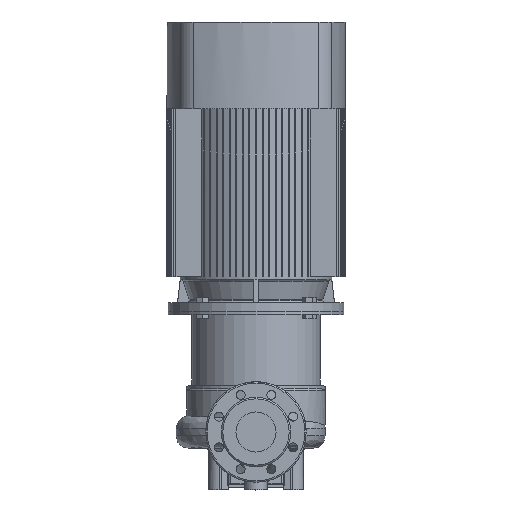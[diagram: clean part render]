
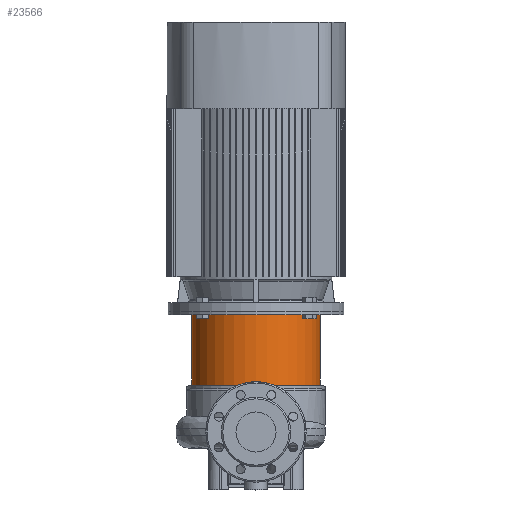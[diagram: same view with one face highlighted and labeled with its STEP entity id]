
A CAD part, top view. The second image highlights one B-rep face of the part: STEP entity #23566.
In plain terms, the highlighted cylindrical face has radius 128 mm (diameter 256 mm), a partial arc.
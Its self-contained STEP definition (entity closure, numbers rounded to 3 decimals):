
#825 = DIRECTION ( 'NONE',  ( 0., 0., 1. ) ) ;
#1632 = DIRECTION ( 'NONE',  ( 1., 0., 0. ) ) ;
#2549 = AXIS2_PLACEMENT_3D ( 'NONE', #22375, #8466, #3315 ) ;
#2662 = LINE ( 'NONE', #13125, #8387 ) ;
#3118 = CARTESIAN_POINT ( 'NONE',  ( -128., 0., -148. ) ) ;
#3315 = DIRECTION ( 'NONE',  ( 1., 0., 0. ) ) ;
#4358 = EDGE_CURVE ( 'NONE', #11032, #20697, #5488, .T. ) ;
#5488 = CIRCLE ( 'NONE', #12046, 128. ) ;
#8025 = DIRECTION ( 'NONE',  ( 1., 0., 0. ) ) ;
#8214 = ORIENTED_EDGE ( 'NONE', *, *, #14484, .F. ) ;
#8387 = VECTOR ( 'NONE', #17967, 1000. ) ;
#8466 = DIRECTION ( 'NONE',  ( 0., 0., 1. ) ) ;
#10186 = EDGE_CURVE ( 'NONE', #14344, #23514, #17652, .T. ) ;
#11032 = VERTEX_POINT ( 'NONE', #18712 ) ;
#12046 = AXIS2_PLACEMENT_3D ( 'NONE', #15052, #825, #8025 ) ;
#12205 = VECTOR ( 'NONE', #17891, 1000. ) ;
#13125 = CARTESIAN_POINT ( 'NONE',  ( -128., 0., 14.36 ) ) ;
#14344 = VERTEX_POINT ( 'NONE', #3118 ) ;
#14369 = CARTESIAN_POINT ( 'NONE',  ( 128., 0., -6. ) ) ;
#14484 = EDGE_CURVE ( 'NONE', #14344, #11032, #2662, .T. ) ;
#15052 = CARTESIAN_POINT ( 'NONE',  ( 0., 0., -6. ) ) ;
#17652 = CIRCLE ( 'NONE', #25170, 128. ) ;
#17745 = LINE ( 'NONE', #18213, #12205 ) ;
#17891 = DIRECTION ( 'NONE',  ( 0., 0., 1. ) ) ;
#17967 = DIRECTION ( 'NONE',  ( 0., 0., 1. ) ) ;
#18213 = CARTESIAN_POINT ( 'NONE',  ( 128., 0., 14.36 ) ) ;
#18306 = ORIENTED_EDGE ( 'NONE', *, *, #10186, .T. ) ;
#18712 = CARTESIAN_POINT ( 'NONE',  ( -128., 0., -6. ) ) ;
#20409 = EDGE_LOOP ( 'NONE', ( #8214, #18306, #27872, #24526 ) ) ;
#20486 = CYLINDRICAL_SURFACE ( 'NONE', #2549, 128. ) ;
#20697 = VERTEX_POINT ( 'NONE', #14369 ) ;
#22375 = CARTESIAN_POINT ( 'NONE',  ( 0., 0., 14.36 ) ) ;
#23046 = DIRECTION ( 'NONE',  ( 0., 0., 1. ) ) ;
#23514 = VERTEX_POINT ( 'NONE', #29912 ) ;
#23566 = ADVANCED_FACE ( 'NONE', ( #27560 ), #20486, .T. ) ;
#24526 = ORIENTED_EDGE ( 'NONE', *, *, #4358, .F. ) ;
#25031 = EDGE_CURVE ( 'NONE', #23514, #20697, #17745, .T. ) ;
#25170 = AXIS2_PLACEMENT_3D ( 'NONE', #28240, #23046, #1632 ) ;
#27560 = FACE_OUTER_BOUND ( 'NONE', #20409, .T. ) ;
#27872 = ORIENTED_EDGE ( 'NONE', *, *, #25031, .T. ) ;
#28240 = CARTESIAN_POINT ( 'NONE',  ( 0., 0., -148. ) ) ;
#29912 = CARTESIAN_POINT ( 'NONE',  ( 128., 0., -148. ) ) ;
